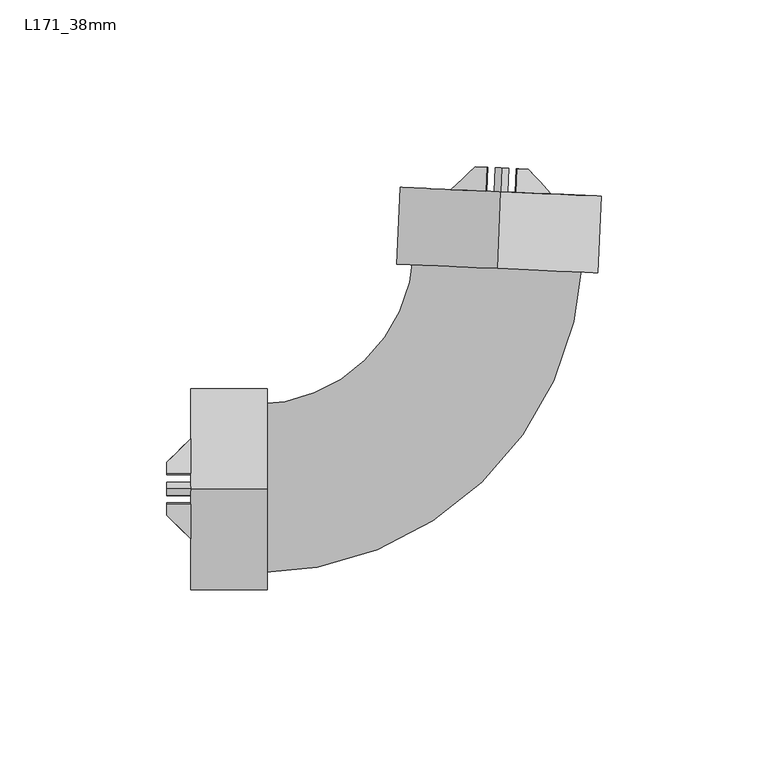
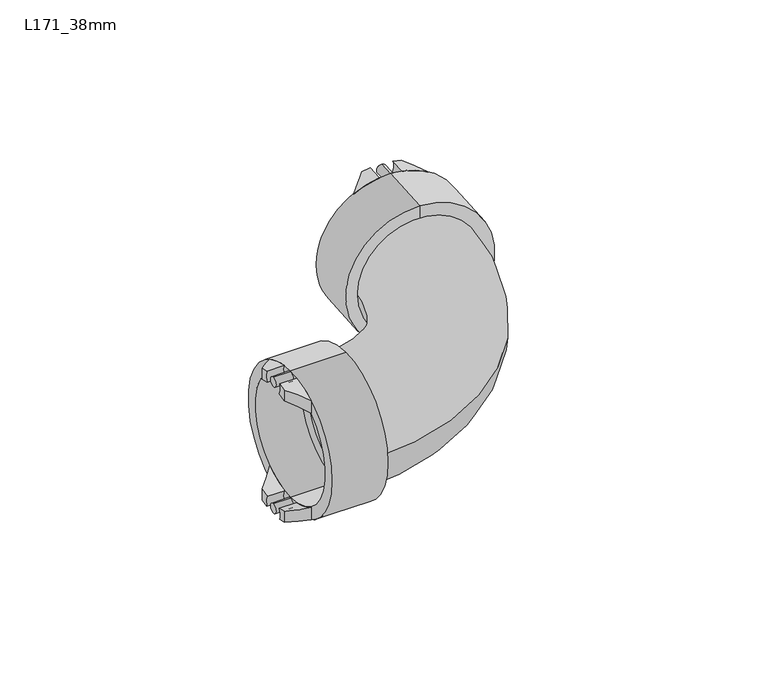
"""IFC4 building model written with IfcOpenShell, lengths in millimetres: pipe fitting geometry, Durapipe_PipeFitting_VulcatheneEnfusion_DoubleSocketLongSweepBend_L17 : L171_38mm."""

from ifc_helpers import new_model, si_unit, point, frame, frame_2d, origin, place, context, project, spatial, polyline, circle_curve, ellipse_curve, trimmed, segment, composite_curve, outline, extrude, source, transform, mapped, element, save
from ifc_brep_helpers import plane_surface, cylinder_surface, revolved_surface, advanced_brep


def l171_38mm_267e390a(model_context):
    return source(origin(), model_context, "Body", "SolidModel", [
        advanced_brep(
        [(-0.0371428, 96.2798252, -25.0948649), (-0.4062625, 96.2959413, -29.6948649), (-3.7368437, 96.4413576, -28.9820444), (-3.7368437, 96.4413576, -24.1797208), (-11.0998218, 89.6560681, -26.0384811), (-0.7159602, 89.202699, -29.6948649), (-0.3468404, 89.1865828, -25.0948649), (-11.0998218, 89.6560681, -20.5597301)],
        [
            (0, 1, circle_curve(frame((4.1955992, 96.0950197, -27.75), z_axis=(-0.04361938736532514, -0.9990482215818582, 0.0), x_axis=(0.0, 0.0, 1.0)), 5.0)),
            (1, 2, circle_curve(frame((4.1955992, 96.0950197, 0.0), z_axis=(0.04361938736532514, 0.9990482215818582, 0.0), x_axis=(0.0, 0.0, 1.0)), 30.05)),
            (2, 3),
            (3, 0, circle_curve(frame((4.1955992, 96.0950197, 0.0), z_axis=(-0.04361938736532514, -0.9990482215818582, 0.0), x_axis=(0.0, 0.0, 1.0)), 25.45)),
            (4, 5, circle_curve(frame((3.8859015, 89.0017773, 0.0), z_axis=(-0.04361938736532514, -0.9990482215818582, 0.0), x_axis=(0.0, 0.0, 1.0)), 30.05)),
            (5, 6, circle_curve(frame((3.8859015, 89.0017773, -27.75), z_axis=(0.04361938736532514, 0.9990482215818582, 0.0), x_axis=(0.0, 0.0, 1.0)), 5.0)),
            (6, 7, circle_curve(frame((3.8859015, 89.0017773, 0.0), z_axis=(0.04361938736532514, 0.9990482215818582, 0.0), x_axis=(0.0, 0.0, 1.0)), 25.45)),
            (7, 4),
            (6, 0),
            (3, 7, ellipse_curve(frame((4.5438994, 104.0724056, 0.0), z_axis=(-0.6776702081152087, 0.7353659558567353, 0.0), x_axis=(-0.7353659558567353, -0.6776702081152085, 0.0)), 36.0938388, 25.45)),
            (4, 2, ellipse_curve(frame((4.5438994, 104.0724056, 0.0), z_axis=(0.6776702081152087, -0.7353659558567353, 0.0), x_axis=(0.7353659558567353, 0.6776702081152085, 0.0)), 42.617676, 30.05)),
            (1, 5),
        ],
        [
            plane_surface(frame((-10.7901242, 96.7493105, -26.0384811), z_axis=(0.04361938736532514, 0.9990482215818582, 0.0), x_axis=(0.0, 0.0, 1.0))),
            plane_surface(frame((-11.0998218, 89.6560681, -26.0384811), z_axis=(-0.04361938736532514, -0.9990482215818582, 0.0), x_axis=(0.0, 0.0, -1.0))),
            revolved_surface(polyline([(3.4274963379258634, 78.50257294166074, 25.45), (5.660302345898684, 129.64223826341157, 25.45)]), (3.8859015, 89.0017773, 0.0), (-0.04361938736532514, -0.9990482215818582, 0.0)),
            cylinder_surface(frame((3.8859015, 89.0017773, 0.0), z_axis=(0.04361938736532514, 0.9990482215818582, 0.0), x_axis=(0.0, 0.0, 1.0)), 30.05),
            revolved_surface(polyline([(4.19559915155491, 96.09501970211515, -22.75), (3.885901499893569, 89.00177729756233, -22.75)]), (3.8859015, 89.0017773, -27.75), (0.04361938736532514, 0.9990482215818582, 0.0)),
            plane_surface(frame((-11.0998218, 89.6560681, 30.05), z_axis=(-0.6776702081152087, 0.7353659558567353, 0.0), x_axis=(0.0, 0.0, -1.0))),
        ],
        [
            (0, [[1, 2, 3, 4]]),
            (1, [[5, 6, 7, 8]]),
            (2, [[-7, 9, -4, 10]]),
            (3, [[-5, 11, -2, 12]]),
            (4, [[-1, -9, -6, -12]]),
            (5, [[-3, -11, -8, -10]]),
        ],
    ),
        advanced_brep(
        [(8.7974609, 95.8940981, -29.6948649), (8.4283411, 95.9102142, -25.0948649), (12.128042, 95.7486818, -24.1797208), (12.128042, 95.7486818, -28.9820444), (8.4877632, 88.8008557, -29.6948649), (18.8716248, 88.3474865, -26.0384811), (18.8716248, 88.3474865, -20.5597301), (8.1186435, 88.8169718, -25.0948649)],
        [
            (0, 1, circle_curve(frame((4.1955992, 96.0950197, -27.75), z_axis=(-0.04361938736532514, -0.9990482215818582, 0.0), x_axis=(0.0, 0.0, 1.0)), 5.0)),
            (1, 2, circle_curve(frame((4.1955992, 96.0950197, 0.0), z_axis=(-0.04361938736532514, -0.9990482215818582, 0.0), x_axis=(0.0, 0.0, 1.0)), 25.45)),
            (2, 3),
            (3, 0, circle_curve(frame((4.1955992, 96.0950197, 0.0), z_axis=(0.04361938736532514, 0.9990482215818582, 0.0), x_axis=(0.0, 0.0, 1.0)), 30.05)),
            (4, 5, circle_curve(frame((3.8859015, 89.0017773, 0.0), z_axis=(-0.04361938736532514, -0.9990482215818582, 0.0), x_axis=(0.0, 0.0, 1.0)), 30.05)),
            (5, 6),
            (6, 7, circle_curve(frame((3.8859015, 89.0017773, 0.0), z_axis=(0.04361938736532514, 0.9990482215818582, 0.0), x_axis=(0.0, 0.0, 1.0)), 25.45)),
            (7, 4, circle_curve(frame((3.8859015, 89.0017773, -27.75), z_axis=(0.04361938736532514, 0.9990482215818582, 0.0), x_axis=(0.0, 0.0, 1.0)), 5.0)),
            (6, 2, ellipse_curve(frame((4.5438994, 104.0724056, 0.0), z_axis=(0.7391828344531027, 0.6735048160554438, 0.0), x_axis=(0.6735048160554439, -0.7391828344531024, 0.0)), 36.0938388, 25.45)),
            (1, 7),
            (4, 0),
            (3, 5, ellipse_curve(frame((4.5438994, 104.0724056, 0.0), z_axis=(-0.7391828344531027, -0.6735048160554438, 0.0), x_axis=(-0.6735048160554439, 0.7391828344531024, 0.0)), 42.617676, 30.05)),
        ],
        [
            plane_surface(frame((-10.7901242, 96.7493105, -26.0384811), z_axis=(0.04361938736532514, 0.9990482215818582, 0.0), x_axis=(0.0, 0.0, 1.0))),
            plane_surface(frame((-11.0998218, 89.6560681, -26.0384811), z_axis=(-0.04361938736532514, -0.9990482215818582, 0.0), x_axis=(0.0, 0.0, -1.0))),
            revolved_surface(polyline([(3.427496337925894, 78.50257294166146, 25.45), (5.6603023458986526, 129.64223826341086, 25.45)]), (3.8859015, 89.0017773, 0.0), (-0.04361938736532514, -0.9990482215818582, 0.0)),
            cylinder_surface(frame((3.8859015, 89.0017773, 0.0), z_axis=(0.04361938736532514, 0.9990482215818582, 0.0), x_axis=(0.0, 0.0, 1.0)), 30.05),
            revolved_surface(polyline([(4.19559915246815, 96.0950197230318, -22.75), (3.8859015, 89.0017773, -22.75)]), (3.8859015, 89.0017773, -27.75), (0.04361938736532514, 0.9990482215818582, 0.0)),
            plane_surface(frame((12.128042, 95.7486818, 30.05), z_axis=(0.7391828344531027, 0.6735048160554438, 0.0), x_axis=(0.0, 0.0, -1.0))),
        ],
        [
            (0, [[1, 2, 3, 4]]),
            (1, [[5, 6, 7, 8]]),
            (2, [[-7, 9, -2, 10]]),
            (3, [[-5, 11, -4, 12]]),
            (4, [[-1, -11, -8, -10]]),
            (5, [[-3, -9, -6, -12]]),
        ],
    ),
        advanced_brep(
        [(-0.4062625, 96.2959413, 29.6948649), (-0.0371428, 96.2798252, 25.0948649), (-3.7368437, 96.4413576, 24.1797208), (-3.7368437, 96.4413576, 28.9820444), (-0.7159602, 89.202699, 29.6948649), (-11.0998218, 89.6560681, 26.0384811), (-11.0998218, 89.6560681, 20.5597301), (-0.3468404, 89.1865828, 25.0948649)],
        [
            (0, 1, circle_curve(frame((4.1955992, 96.0950197, 27.75), z_axis=(-0.04361938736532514, -0.9990482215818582, 0.0), x_axis=(0.0, 0.0, 1.0)), 5.0)),
            (1, 2, circle_curve(frame((4.1955992, 96.0950197, 0.0), z_axis=(-0.04361938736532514, -0.9990482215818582, 0.0), x_axis=(0.0, 0.0, 1.0)), 25.45)),
            (2, 3),
            (3, 0, circle_curve(frame((4.1955992, 96.0950197, 0.0), z_axis=(0.04361938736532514, 0.9990482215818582, 0.0), x_axis=(0.0, 0.0, 1.0)), 30.05)),
            (4, 5, circle_curve(frame((3.8859015, 89.0017773, 0.0), z_axis=(-0.04361938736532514, -0.9990482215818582, 0.0), x_axis=(0.0, 0.0, 1.0)), 30.05)),
            (5, 6),
            (6, 7, circle_curve(frame((3.8859015, 89.0017773, 0.0), z_axis=(0.04361938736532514, 0.9990482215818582, 0.0), x_axis=(0.0, 0.0, 1.0)), 25.45)),
            (7, 4, circle_curve(frame((3.8859015, 89.0017773, 27.75), z_axis=(0.04361938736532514, 0.9990482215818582, 0.0), x_axis=(0.0, 0.0, 1.0)), 5.0)),
            (6, 2, ellipse_curve(frame((4.5438994, 104.0724056, 0.0), z_axis=(-0.6776702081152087, 0.7353659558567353, 0.0), x_axis=(-0.7353659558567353, -0.6776702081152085, 0.0)), 36.0938388, 25.45)),
            (1, 7),
            (4, 0),
            (3, 5, ellipse_curve(frame((4.5438994, 104.0724056, 0.0), z_axis=(0.6776702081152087, -0.7353659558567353, 0.0), x_axis=(0.7353659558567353, 0.6776702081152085, 0.0)), 42.617676, 30.05)),
        ],
        [
            plane_surface(frame((-10.7901242, 96.7493105, -26.0384811), z_axis=(0.04361938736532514, 0.9990482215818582, 0.0), x_axis=(0.0, 0.0, 1.0))),
            plane_surface(frame((-11.0998218, 89.6560681, -26.0384811), z_axis=(-0.04361938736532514, -0.9990482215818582, 0.0), x_axis=(0.0, 0.0, -1.0))),
            revolved_surface(polyline([(3.4274963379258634, 78.50257294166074, 25.45), (5.660302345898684, 129.64223826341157, 25.45)]), (3.8859015, 89.0017773, 0.0), (-0.04361938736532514, -0.9990482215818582, 0.0)),
            cylinder_surface(frame((3.8859015, 89.0017773, 0.0), z_axis=(0.04361938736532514, 0.9990482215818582, 0.0), x_axis=(0.0, 0.0, 1.0)), 30.05),
            revolved_surface(polyline([(4.19559915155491, 96.09501970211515, 32.75), (3.885901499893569, 89.00177729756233, 32.75)]), (3.8859015, 89.0017773, 27.75), (0.04361938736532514, 0.9990482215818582, 0.0)),
            plane_surface(frame((-11.0998218, 89.6560681, 30.05), z_axis=(-0.6776702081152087, 0.7353659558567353, 0.0), x_axis=(0.0, 0.0, -1.0))),
        ],
        [
            (0, [[1, 2, 3, 4]]),
            (1, [[5, 6, 7, 8]]),
            (2, [[-7, 9, -2, 10]]),
            (3, [[-5, 11, -4, 12]]),
            (4, [[-1, -11, -8, -10]]),
            (5, [[-3, -9, -6, -12]]),
        ],
    ),
        advanced_brep(
        [(8.4283411, 95.9102142, 25.0948649), (8.7974609, 95.8940981, 29.6948649), (12.128042, 95.7486818, 28.9820444), (12.128042, 95.7486818, 24.1797208), (18.8716248, 88.3474865, 26.0384811), (8.4877632, 88.8008557, 29.6948649), (8.1186435, 88.8169718, 25.0948649), (18.8716248, 88.3474865, 20.5597301)],
        [
            (0, 1, circle_curve(frame((4.1955992, 96.0950197, 27.75), z_axis=(-0.04361938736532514, -0.9990482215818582, 0.0), x_axis=(0.0, 0.0, 1.0)), 5.0)),
            (1, 2, circle_curve(frame((4.1955992, 96.0950197, 0.0), z_axis=(0.04361938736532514, 0.9990482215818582, 0.0), x_axis=(0.0, 0.0, 1.0)), 30.05)),
            (2, 3),
            (3, 0, circle_curve(frame((4.1955992, 96.0950197, 0.0), z_axis=(-0.04361938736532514, -0.9990482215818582, 0.0), x_axis=(0.0, 0.0, 1.0)), 25.45)),
            (4, 5, circle_curve(frame((3.8859015, 89.0017773, 0.0), z_axis=(-0.04361938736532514, -0.9990482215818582, 0.0), x_axis=(0.0, 0.0, 1.0)), 30.05)),
            (5, 6, circle_curve(frame((3.8859015, 89.0017773, 27.75), z_axis=(0.04361938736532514, 0.9990482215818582, 0.0), x_axis=(0.0, 0.0, 1.0)), 5.0)),
            (6, 7, circle_curve(frame((3.8859015, 89.0017773, 0.0), z_axis=(0.04361938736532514, 0.9990482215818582, 0.0), x_axis=(0.0, 0.0, 1.0)), 25.45)),
            (7, 4),
            (6, 0),
            (3, 7, ellipse_curve(frame((4.5438994, 104.0724056, 0.0), z_axis=(0.7391828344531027, 0.6735048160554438, 0.0), x_axis=(0.6735048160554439, -0.7391828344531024, 0.0)), 36.0938388, 25.45)),
            (4, 2, ellipse_curve(frame((4.5438994, 104.0724056, 0.0), z_axis=(-0.7391828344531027, -0.6735048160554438, 0.0), x_axis=(-0.6735048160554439, 0.7391828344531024, 0.0)), 42.617676, 30.05)),
            (1, 5),
        ],
        [
            plane_surface(frame((-10.7901242, 96.7493105, -26.0384811), z_axis=(0.04361938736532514, 0.9990482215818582, 0.0), x_axis=(0.0, 0.0, 1.0))),
            plane_surface(frame((-11.0998218, 89.6560681, -26.0384811), z_axis=(-0.04361938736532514, -0.9990482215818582, 0.0), x_axis=(0.0, 0.0, -1.0))),
            revolved_surface(polyline([(3.427496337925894, 78.50257294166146, 25.45), (5.6603023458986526, 129.64223826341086, 25.45)]), (3.8859015, 89.0017773, 0.0), (-0.04361938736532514, -0.9990482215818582, 0.0)),
            cylinder_surface(frame((3.8859015, 89.0017773, 0.0), z_axis=(0.04361938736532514, 0.9990482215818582, 0.0), x_axis=(0.0, 0.0, 1.0)), 30.05),
            revolved_surface(polyline([(4.19559915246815, 96.0950197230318, 32.75), (3.8859015, 89.0017773, 32.75)]), (3.8859015, 89.0017773, 27.75), (0.04361938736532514, 0.9990482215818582, 0.0)),
            plane_surface(frame((12.128042, 95.7486818, 30.05), z_axis=(0.7391828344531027, 0.6735048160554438, 0.0), x_axis=(0.0, 0.0, -1.0))),
        ],
        [
            (0, [[1, 2, 3, 4]]),
            (1, [[5, 6, 7, 8]]),
            (2, [[-7, 9, -4, 10]]),
            (3, [[-5, 11, -2, 12]]),
            (4, [[-1, -9, -6, -12]]),
            (5, [[-3, -11, -8, -10]]),
        ],
    ),
        extrude(outline(composite_curve([segment(trimmed(circle_curve(frame_2d((0.0, -2.0)), 2.0), [point((0.0, -4.0))], [point((0.0, 0.0))], False, "CARTESIAN"), True, "CONTINUOUS"), segment(trimmed(circle_curve(frame_2d((0.0, -2.0)), 2.0), [point((0.0, 0.0))], [point((0.0, -4.0))], False, "CARTESIAN"), True, "CONTINUOUS")], self_intersect=False)), frame((3.8859015, 89.0017773, -25.75), z_axis=(0.04361938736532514, 0.9990482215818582, 0.0), x_axis=(-0.9990482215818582, 0.04361938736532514, 0.0)), (0.0, 0.0, 1.0), 7.1),
        extrude(outline(composite_curve([segment(trimmed(circle_curve(frame_2d((0.0, 53.5)), 2.0), [point((0.0, 51.5))], [point((0.0, 55.5))], False, "CARTESIAN"), True, "CONTINUOUS"), segment(trimmed(circle_curve(frame_2d((0.0, 53.5)), 2.0), [point((0.0, 55.5))], [point((0.0, 51.5))], False, "CARTESIAN"), True, "CONTINUOUS")], self_intersect=False)), frame((3.8859015, 89.0017773, -25.75), z_axis=(0.04361938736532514, 0.9990482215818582, 0.0), x_axis=(-0.9990482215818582, 0.04361938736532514, 0.0)), (0.0, 0.0, 1.0), 7.1),
        advanced_brep(
        [(3.0440473, 69.7201467, -20.65), (3.0440473, 69.7201467, 20.65), (3.0440473, 69.7201467, 25.3), (3.0440473, 69.7201467, -25.3), (2.8826556, 66.0236682, -20.65), (2.8826556, 66.0236682, 20.65), (2.8826556, 66.0236682, -30.2), (2.8826556, 66.0236682, 30.2), (3.8859015, 89.0017773, -30.2), (3.8859015, 89.0017773, 30.2), (3.8859015, 89.0017773, -25.3), (3.8859015, 89.0017773, 25.3)],
        [
            (0, 1, circle_curve(frame((3.0440473, 69.7201467, 0.0), z_axis=(-0.04361938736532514, -0.9990482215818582, 0.0), x_axis=(0.0, 0.0, 1.0)), 20.65)),
            (1, 2),
            (2, 3, circle_curve(frame((3.0440473, 69.7201467, 0.0), z_axis=(0.04361938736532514, 0.9990482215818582, 0.0), x_axis=(0.0, 0.0, 1.0)), 25.3)),
            (3, 0),
            (1, 0, circle_curve(frame((3.0440473, 69.7201467, 0.0), z_axis=(-0.04361938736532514, -0.9990482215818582, 0.0), x_axis=(0.0, 0.0, 1.0)), 20.65)),
            (3, 2, circle_curve(frame((3.0440473, 69.7201467, 0.0), z_axis=(0.04361938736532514, 0.9990482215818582, 0.0), x_axis=(0.0, 0.0, 1.0)), 25.3)),
            (4, 5, circle_curve(frame((2.8826556, 66.0236682, 0.0), z_axis=(-0.04361938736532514, -0.9990482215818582, 0.0), x_axis=(0.0, 0.0, 1.0)), 20.65)),
            (5, 1),
            (0, 4),
            (5, 4, circle_curve(frame((2.8826556, 66.0236682, 0.0), z_axis=(-0.04361938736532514, -0.9990482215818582, 0.0), x_axis=(0.0, 0.0, 1.0)), 20.65)),
            (6, 7, circle_curve(frame((2.8826556, 66.0236682, 0.0), z_axis=(-0.04361938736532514, -0.9990482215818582, 0.0), x_axis=(0.0, 0.0, 1.0)), 30.2)),
            (7, 5),
            (4, 6),
            (7, 6, circle_curve(frame((2.8826556, 66.0236682, 0.0), z_axis=(-0.04361938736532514, -0.9990482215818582, 0.0), x_axis=(0.0, 0.0, 1.0)), 30.2)),
            (8, 9, circle_curve(frame((3.8859015, 89.0017773, 0.0), z_axis=(-0.04361938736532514, -0.9990482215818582, 0.0), x_axis=(0.0, 0.0, 1.0)), 30.2)),
            (9, 7),
            (6, 8),
            (9, 8, circle_curve(frame((3.8859015, 89.0017773, 0.0), z_axis=(-0.04361938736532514, -0.9990482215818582, 0.0), x_axis=(0.0, 0.0, 1.0)), 30.2)),
            (10, 11, circle_curve(frame((3.8859015, 89.0017773, 0.0), z_axis=(-0.04361938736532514, -0.9990482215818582, 0.0), x_axis=(0.0, 0.0, 1.0)), 25.3)),
            (11, 9),
            (8, 10),
            (11, 10, circle_curve(frame((3.8859015, 89.0017773, 0.0), z_axis=(-0.04361938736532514, -0.9990482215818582, 0.0), x_axis=(0.0, 0.0, 1.0)), 25.3)),
            (2, 11),
            (10, 3),
        ],
        [
            plane_surface(frame((3.0440473, 69.7201467, 0.0), z_axis=(0.04361938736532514, 0.9990482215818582, 0.0), x_axis=(0.0, 0.0, 1.0))),
            revolved_surface(polyline([(3.044047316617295, 69.72014669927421, 20.65), (2.882655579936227, 66.02366820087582, 20.65)]), (113.5442834, 2600.591647, 0.0), (0.04361938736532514, 0.9990482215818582, 0.0)),
            plane_surface(frame((2.8826556, 66.0236682, 0.0), z_axis=(-0.04361938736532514, -0.9990482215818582, 0.0), x_axis=(0.0, 0.0, 1.0))),
            cylinder_surface(frame((113.5442834, 2600.591647, 0.0), z_axis=(0.04361938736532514, 0.9990482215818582, 0.0), x_axis=(0.0, 0.0, 1.0)), 30.2),
            plane_surface(frame((3.8859015, 89.0017773, 0.0), z_axis=(0.04361938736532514, 0.9990482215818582, 0.0), x_axis=(0.0, 0.0, 1.0))),
            revolved_surface(polyline([(3.8859014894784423, 89.00177730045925, 25.3), (3.044047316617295, 69.72014669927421, 25.3)]), (113.5442834, 2600.591647, 0.0), (0.04361938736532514, 0.9990482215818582, 0.0)),
        ],
        [
            (0, [[1, 2, 3, 4]]),
            (0, [[5, -4, 6, -2]]),
            (1, [[7, 8, -1, 9]]),
            (1, [[10, -9, -5, -8]]),
            (2, [[11, 12, -7, 13]]),
            (2, [[14, -13, -10, -12]]),
            (3, [[15, 16, -11, 17]]),
            (3, [[18, -17, -14, -16]]),
            (4, [[19, 20, -15, 21]]),
            (4, [[22, -21, -18, -20]]),
            (5, [[-3, 23, -19, 24]]),
            (5, [[-6, -24, -22, -23]]),
        ],
    ),
        advanced_brep(
        [(-96.186568, -4.2367744, -25.0948649), (-96.186568, -4.6062458, -29.6948649), (-96.186568, -7.94, -28.9820444), (-96.186568, -7.94, -24.1797208), (-89.086568, -15.0, -26.0384811), (-89.086568, -4.6062458, -29.6948649), (-89.086568, -4.2367744, -25.0948649), (-89.086568, -15.0, -20.5597301)],
        [
            (0, 1, circle_curve(frame((-96.186568, 0.0, -27.75), z_axis=(1.0, 0.0, 0.0), x_axis=(0.0, 0.0, 1.0)), 5.0)),
            (1, 2, circle_curve(frame((-96.186568, 0.0, 0.0), z_axis=(-1.0, 0.0, 0.0), x_axis=(0.0, 0.0, 1.0)), 30.05)),
            (2, 3),
            (3, 0, circle_curve(frame((-96.186568, 0.0, 0.0), z_axis=(1.0, 0.0, 0.0), x_axis=(0.0, 0.0, 1.0)), 25.45)),
            (4, 5, circle_curve(frame((-89.086568, 0.0, 0.0), z_axis=(1.0, 0.0, 0.0), x_axis=(0.0, 0.0, 1.0)), 30.05)),
            (5, 6, circle_curve(frame((-89.086568, 0.0, -27.75), z_axis=(-1.0, 0.0, 0.0), x_axis=(0.0, 0.0, 1.0)), 5.0)),
            (6, 7, circle_curve(frame((-89.086568, 0.0, 0.0), z_axis=(-1.0, 0.0, 0.0), x_axis=(0.0, 0.0, 1.0)), 25.45)),
            (7, 4),
            (6, 0),
            (3, 7, ellipse_curve(frame((-104.1715538, 0.0, 0.0), z_axis=(-0.705106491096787, -0.7091014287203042, 0.0), x_axis=(0.7091014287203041, -0.7051064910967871, 0.0)), 36.0938388, 25.45)),
            (4, 2, ellipse_curve(frame((-104.1715538, 0.0, 0.0), z_axis=(0.705106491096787, 0.7091014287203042, 0.0), x_axis=(-0.7091014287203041, 0.7051064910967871, 0.0)), 42.617676, 30.05)),
            (1, 5),
        ],
        [
            plane_surface(frame((-96.186568, -15.0, -26.0384811), z_axis=(-1.0, 0.0, 0.0), x_axis=(0.0, 0.0, 1.0))),
            plane_surface(frame((-89.086568, -15.0, -26.0384811), z_axis=(1.0, 0.0, 0.0), x_axis=(0.0, 0.0, -1.0))),
            revolved_surface(polyline([(-78.57736113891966, 0.0, 25.45), (-129.76574646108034, 0.0, 25.45)]), (-89.086568, 0.0, 0.0), (1.0, 0.0, 0.0)),
            cylinder_surface(frame((-89.086568, 0.0, 0.0), z_axis=(-1.0, 0.0, 0.0), x_axis=(0.0, 0.0, 1.0)), 30.05),
            revolved_surface(polyline([(-96.186568, 0.0, -22.75), (-89.086568, 0.0, -22.75)]), (-89.086568, 0.0, -27.75), (-1.0, 0.0, 0.0)),
            plane_surface(frame((-89.086568, -15.0, 30.05), z_axis=(-0.705106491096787, -0.7091014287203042, 0.0), x_axis=(0.0, 0.0, -1.0))),
        ],
        [
            (0, [[1, 2, 3, 4]]),
            (1, [[5, 6, 7, 8]]),
            (2, [[-7, 9, -4, 10]]),
            (3, [[-5, 11, -2, 12]]),
            (4, [[-1, -9, -6, -12]]),
            (5, [[-3, -11, -8, -10]]),
        ],
    ),
        advanced_brep(
        [(-96.186568, 4.6062458, -29.6948649), (-96.186568, 4.2367744, -25.0948649), (-96.186568, 7.94, -24.1797208), (-96.186568, 7.94, -28.9820444), (-89.086568, 4.6062458, -29.6948649), (-89.086568, 15.0, -26.0384811), (-89.086568, 15.0, -20.5597301), (-89.086568, 4.2367744, -25.0948649)],
        [
            (0, 1, circle_curve(frame((-96.186568, 0.0, -27.75), z_axis=(1.0, 0.0, 0.0), x_axis=(0.0, 0.0, 1.0)), 5.0)),
            (1, 2, circle_curve(frame((-96.186568, 0.0, 0.0), z_axis=(1.0, 0.0, 0.0), x_axis=(0.0, 0.0, 1.0)), 25.45)),
            (2, 3),
            (3, 0, circle_curve(frame((-96.186568, 0.0, 0.0), z_axis=(-1.0, 0.0, 0.0), x_axis=(0.0, 0.0, 1.0)), 30.05)),
            (4, 5, circle_curve(frame((-89.086568, 0.0, 0.0), z_axis=(1.0, 0.0, 0.0), x_axis=(0.0, 0.0, 1.0)), 30.05)),
            (5, 6),
            (6, 7, circle_curve(frame((-89.086568, 0.0, 0.0), z_axis=(-1.0, 0.0, 0.0), x_axis=(0.0, 0.0, 1.0)), 25.45)),
            (7, 4, circle_curve(frame((-89.086568, 0.0, -27.75), z_axis=(-1.0, 0.0, 0.0), x_axis=(0.0, 0.0, 1.0)), 5.0)),
            (6, 2, ellipse_curve(frame((-104.1715538, 0.0, 0.0), z_axis=(-0.7051064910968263, 0.7091014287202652, 0.0), x_axis=(0.7091014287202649, 0.7051064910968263, 0.0)), 36.0938388, 25.45)),
            (1, 7),
            (4, 0),
            (3, 5, ellipse_curve(frame((-104.1715538, 0.0, 0.0), z_axis=(0.7051064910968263, -0.7091014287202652, 0.0), x_axis=(-0.7091014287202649, -0.7051064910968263, 0.0)), 42.617676, 30.05)),
        ],
        [
            plane_surface(frame((-96.186568, -15.0, -26.0384811), z_axis=(-1.0, 0.0, 0.0), x_axis=(0.0, 0.0, 1.0))),
            plane_surface(frame((-89.086568, -15.0, -26.0384811), z_axis=(1.0, 0.0, 0.0), x_axis=(0.0, 0.0, -1.0))),
            revolved_surface(polyline([(-78.57736113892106, 0.0, 25.45), (-129.76574646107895, 0.0, 25.45)]), (-89.086568, 0.0, 0.0), (1.0, 0.0, 0.0)),
            cylinder_surface(frame((-89.086568, 0.0, 0.0), z_axis=(-1.0, 0.0, 0.0), x_axis=(0.0, 0.0, 1.0)), 30.05),
            revolved_surface(polyline([(-96.186568, 0.0, -22.75), (-89.086568, 0.0, -22.75)]), (-89.086568, 0.0, -27.75), (-1.0, 0.0, 0.0)),
            plane_surface(frame((-96.186568, 7.94, 30.05), z_axis=(-0.7051064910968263, 0.7091014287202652, 0.0), x_axis=(0.0, 0.0, -1.0))),
        ],
        [
            (0, [[1, 2, 3, 4]]),
            (1, [[5, 6, 7, 8]]),
            (2, [[-7, 9, -2, 10]]),
            (3, [[-5, 11, -4, 12]]),
            (4, [[-1, -11, -8, -10]]),
            (5, [[-3, -9, -6, -12]]),
        ],
    ),
        advanced_brep(
        [(-96.186568, -4.6062458, 29.6948649), (-96.186568, -4.2367744, 25.0948649), (-96.186568, -7.94, 24.1797208), (-96.186568, -7.94, 28.9820444), (-89.086568, -4.6062458, 29.6948649), (-89.086568, -15.0, 26.0384811), (-89.086568, -15.0, 20.5597301), (-89.086568, -4.2367744, 25.0948649)],
        [
            (0, 1, circle_curve(frame((-96.186568, 0.0, 27.75), z_axis=(1.0, 0.0, 0.0), x_axis=(0.0, 0.0, 1.0)), 5.0)),
            (1, 2, circle_curve(frame((-96.186568, 0.0, 0.0), z_axis=(1.0, 0.0, 0.0), x_axis=(0.0, 0.0, 1.0)), 25.45)),
            (2, 3),
            (3, 0, circle_curve(frame((-96.186568, 0.0, 0.0), z_axis=(-1.0, 0.0, 0.0), x_axis=(0.0, 0.0, 1.0)), 30.05)),
            (4, 5, circle_curve(frame((-89.086568, 0.0, 0.0), z_axis=(1.0, 0.0, 0.0), x_axis=(0.0, 0.0, 1.0)), 30.05)),
            (5, 6),
            (6, 7, circle_curve(frame((-89.086568, 0.0, 0.0), z_axis=(-1.0, 0.0, 0.0), x_axis=(0.0, 0.0, 1.0)), 25.45)),
            (7, 4, circle_curve(frame((-89.086568, 0.0, 27.75), z_axis=(-1.0, 0.0, 0.0), x_axis=(0.0, 0.0, 1.0)), 5.0)),
            (6, 2, ellipse_curve(frame((-104.1715538, 0.0, 0.0), z_axis=(-0.705106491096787, -0.7091014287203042, 0.0), x_axis=(0.7091014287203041, -0.7051064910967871, 0.0)), 36.0938388, 25.45)),
            (1, 7),
            (4, 0),
            (3, 5, ellipse_curve(frame((-104.1715538, 0.0, 0.0), z_axis=(0.705106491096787, 0.7091014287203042, 0.0), x_axis=(-0.7091014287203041, 0.7051064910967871, 0.0)), 42.617676, 30.05)),
        ],
        [
            plane_surface(frame((-96.186568, -15.0, -26.0384811), z_axis=(-1.0, 0.0, 0.0), x_axis=(0.0, 0.0, 1.0))),
            plane_surface(frame((-89.086568, -15.0, -26.0384811), z_axis=(1.0, 0.0, 0.0), x_axis=(0.0, 0.0, -1.0))),
            revolved_surface(polyline([(-78.57736113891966, 0.0, 25.45), (-129.76574646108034, 0.0, 25.45)]), (-89.086568, 0.0, 0.0), (1.0, 0.0, 0.0)),
            cylinder_surface(frame((-89.086568, 0.0, 0.0), z_axis=(-1.0, 0.0, 0.0), x_axis=(0.0, 0.0, 1.0)), 30.05),
            revolved_surface(polyline([(-96.186568, 0.0, 32.75), (-89.086568, 0.0, 32.75)]), (-89.086568, 0.0, 27.75), (-1.0, 0.0, 0.0)),
            plane_surface(frame((-89.086568, -15.0, 30.05), z_axis=(-0.705106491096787, -0.7091014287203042, 0.0), x_axis=(0.0, 0.0, -1.0))),
        ],
        [
            (0, [[1, 2, 3, 4]]),
            (1, [[5, 6, 7, 8]]),
            (2, [[-7, 9, -2, 10]]),
            (3, [[-5, 11, -4, 12]]),
            (4, [[-1, -11, -8, -10]]),
            (5, [[-3, -9, -6, -12]]),
        ],
    ),
        advanced_brep(
        [(-96.186568, 4.2367744, 25.0948649), (-96.186568, 4.6062458, 29.6948649), (-96.186568, 7.94, 28.9820444), (-96.186568, 7.94, 24.1797208), (-89.086568, 15.0, 26.0384811), (-89.086568, 4.6062458, 29.6948649), (-89.086568, 4.2367744, 25.0948649), (-89.086568, 15.0, 20.5597301)],
        [
            (0, 1, circle_curve(frame((-96.186568, 0.0, 27.75), z_axis=(1.0, 0.0, 0.0), x_axis=(0.0, 0.0, 1.0)), 5.0)),
            (1, 2, circle_curve(frame((-96.186568, 0.0, 0.0), z_axis=(-1.0, 0.0, 0.0), x_axis=(0.0, 0.0, 1.0)), 30.05)),
            (2, 3),
            (3, 0, circle_curve(frame((-96.186568, 0.0, 0.0), z_axis=(1.0, 0.0, 0.0), x_axis=(0.0, 0.0, 1.0)), 25.45)),
            (4, 5, circle_curve(frame((-89.086568, 0.0, 0.0), z_axis=(1.0, 0.0, 0.0), x_axis=(0.0, 0.0, 1.0)), 30.05)),
            (5, 6, circle_curve(frame((-89.086568, 0.0, 27.75), z_axis=(-1.0, 0.0, 0.0), x_axis=(0.0, 0.0, 1.0)), 5.0)),
            (6, 7, circle_curve(frame((-89.086568, 0.0, 0.0), z_axis=(-1.0, 0.0, 0.0), x_axis=(0.0, 0.0, 1.0)), 25.45)),
            (7, 4),
            (6, 0),
            (3, 7, ellipse_curve(frame((-104.1715538, 0.0, 0.0), z_axis=(-0.7051064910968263, 0.7091014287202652, 0.0), x_axis=(0.7091014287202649, 0.7051064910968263, 0.0)), 36.0938388, 25.45)),
            (4, 2, ellipse_curve(frame((-104.1715538, 0.0, 0.0), z_axis=(0.7051064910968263, -0.7091014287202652, 0.0), x_axis=(-0.7091014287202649, -0.7051064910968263, 0.0)), 42.617676, 30.05)),
            (1, 5),
        ],
        [
            plane_surface(frame((-96.186568, -15.0, -26.0384811), z_axis=(-1.0, 0.0, 0.0), x_axis=(0.0, 0.0, 1.0))),
            plane_surface(frame((-89.086568, -15.0, -26.0384811), z_axis=(1.0, 0.0, 0.0), x_axis=(0.0, 0.0, -1.0))),
            revolved_surface(polyline([(-78.57736113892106, 0.0, 25.45), (-129.76574646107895, 0.0, 25.45)]), (-89.086568, 0.0, 0.0), (1.0, 0.0, 0.0)),
            cylinder_surface(frame((-89.086568, 0.0, 0.0), z_axis=(-1.0, 0.0, 0.0), x_axis=(0.0, 0.0, 1.0)), 30.05),
            revolved_surface(polyline([(-96.186568, 0.0, 32.75), (-89.086568, 0.0, 32.75)]), (-89.086568, 0.0, 27.75), (-1.0, 0.0, 0.0)),
            plane_surface(frame((-96.186568, 7.94, 30.05), z_axis=(-0.7051064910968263, 0.7091014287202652, 0.0), x_axis=(0.0, 0.0, -1.0))),
        ],
        [
            (0, [[1, 2, 3, 4]]),
            (1, [[5, 6, 7, 8]]),
            (2, [[-7, 9, -4, 10]]),
            (3, [[-5, 11, -2, 12]]),
            (4, [[-1, -9, -6, -12]]),
            (5, [[-3, -11, -8, -10]]),
        ],
    ),
        extrude(outline(composite_curve([segment(trimmed(circle_curve(frame_2d((0.0, -27.75)), 2.0), [point((0.0, -29.75))], [point((0.0, -25.75))], False, "CARTESIAN"), True, "CONTINUOUS"), segment(trimmed(circle_curve(frame_2d((0.0, -27.75)), 2.0), [point((0.0, -25.75))], [point((0.0, -29.75))], False, "CARTESIAN"), True, "CONTINUOUS")], self_intersect=False)), frame((-96.186568, 0.0, 0.0), z_axis=(1.0, 0.0, 0.0), x_axis=(0.0, 1.0, 0.0)), (0.0, 0.0, 1.0), 7.1),
        extrude(outline(composite_curve([segment(trimmed(circle_curve(frame_2d((0.0, 27.75)), 2.0), [point((0.0, 25.75))], [point((0.0, 29.75))], False, "CARTESIAN"), True, "CONTINUOUS"), segment(trimmed(circle_curve(frame_2d((0.0, 27.75)), 2.0), [point((0.0, 29.75))], [point((0.0, 25.75))], False, "CARTESIAN"), True, "CONTINUOUS")], self_intersect=False)), frame((-96.186568, 0.0, 0.0), z_axis=(1.0, 0.0, 0.0), x_axis=(0.0, 1.0, 0.0)), (0.0, 0.0, 1.0), 7.1),
        advanced_brep(
        [(-69.786568, 0.0, -20.65), (-69.786568, 0.0, 20.65), (-69.786568, 0.0, 25.3), (-69.786568, 0.0, -25.3), (-66.086568, 0.0, -20.65), (-66.086568, 0.0, 20.65), (-66.086568, 0.0, -30.2), (-66.086568, 0.0, 30.2), (-89.086568, 0.0, -30.2), (-89.086568, 0.0, 30.2), (-89.086568, 0.0, -25.3), (-89.086568, 0.0, 25.3)],
        [
            (0, 1, circle_curve(frame((-69.786568, 0.0, 0.0), z_axis=(1.0, 0.0, 0.0), x_axis=(0.0, 0.0, 1.0)), 20.65)),
            (1, 2),
            (2, 3, circle_curve(frame((-69.786568, 0.0, 0.0), z_axis=(-1.0, 0.0, 0.0), x_axis=(0.0, 0.0, 1.0)), 25.3)),
            (3, 0),
            (1, 0, circle_curve(frame((-69.786568, 0.0, 0.0), z_axis=(1.0, 0.0, 0.0), x_axis=(0.0, 0.0, 1.0)), 20.65)),
            (3, 2, circle_curve(frame((-69.786568, 0.0, 0.0), z_axis=(-1.0, 0.0, 0.0), x_axis=(0.0, 0.0, 1.0)), 25.3)),
            (4, 5, circle_curve(frame((-66.086568, 0.0, 0.0), z_axis=(1.0, 0.0, 0.0), x_axis=(0.0, 0.0, 1.0)), 20.65)),
            (5, 1),
            (0, 4),
            (5, 4, circle_curve(frame((-66.086568, 0.0, 0.0), z_axis=(1.0, 0.0, 0.0), x_axis=(0.0, 0.0, 1.0)), 20.65)),
            (6, 7, circle_curve(frame((-66.086568, 0.0, 0.0), z_axis=(1.0, 0.0, 0.0), x_axis=(0.0, 0.0, 1.0)), 30.2)),
            (7, 5),
            (4, 6),
            (7, 6, circle_curve(frame((-66.086568, 0.0, 0.0), z_axis=(1.0, 0.0, 0.0), x_axis=(0.0, 0.0, 1.0)), 30.2)),
            (8, 9, circle_curve(frame((-89.086568, 0.0, 0.0), z_axis=(1.0, 0.0, 0.0), x_axis=(0.0, 0.0, 1.0)), 30.2)),
            (9, 7),
            (6, 8),
            (9, 8, circle_curve(frame((-89.086568, 0.0, 0.0), z_axis=(1.0, 0.0, 0.0), x_axis=(0.0, 0.0, 1.0)), 30.2)),
            (10, 11, circle_curve(frame((-89.086568, 0.0, 0.0), z_axis=(1.0, 0.0, 0.0), x_axis=(0.0, 0.0, 1.0)), 25.3)),
            (11, 9),
            (8, 10),
            (11, 10, circle_curve(frame((-89.086568, 0.0, 0.0), z_axis=(1.0, 0.0, 0.0), x_axis=(0.0, 0.0, 1.0)), 25.3)),
            (2, 11),
            (10, 3),
        ],
        [
            plane_surface(frame((-69.786568, 0.0, 0.0), z_axis=(-1.0, 0.0, 0.0), x_axis=(0.0, 0.0, 1.0))),
            revolved_surface(polyline([(-69.78656799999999, 0.0, 20.65), (-66.08656800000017, 0.0, 20.65)]), (-2603.0691921, 0.0, 0.0), (-1.0, 0.0, 0.0)),
            plane_surface(frame((-66.086568, 0.0, 0.0), z_axis=(1.0, 0.0, 0.0), x_axis=(0.0, 0.0, 1.0))),
            cylinder_surface(frame((-2603.0691921, 0.0, 0.0), z_axis=(-1.0, 0.0, 0.0), x_axis=(0.0, 0.0, 1.0)), 30.2),
            plane_surface(frame((-89.086568, 0.0, 0.0), z_axis=(-1.0, 0.0, 0.0), x_axis=(0.0, 0.0, 1.0))),
            revolved_surface(polyline([(-89.08656800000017, 0.0, 25.3), (-69.78656799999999, 0.0, 25.3)]), (-2603.0691921, 0.0, 0.0), (-1.0, 0.0, 0.0)),
        ],
        [
            (0, [[1, 2, 3, 4]]),
            (0, [[5, -4, 6, -2]]),
            (1, [[7, 8, -1, 9]]),
            (1, [[10, -9, -5, -8]]),
            (2, [[11, 12, -7, 13]]),
            (2, [[14, -13, -10, -12]]),
            (3, [[15, 16, -11, 17]]),
            (3, [[18, -17, -14, -16]]),
            (4, [[19, 20, -15, 21]]),
            (4, [[22, -21, -18, -20]]),
            (5, [[-3, 23, -19, 24]]),
            (5, [[-6, -24, -22, -23]]),
        ],
    ),
        advanced_brep(
        [(-69.786568, -25.3, 0.0), (-69.786568, 25.3, 0.0), (-69.786568, -20.65, 0.0), (-69.786568, 20.65, 0.0), (28.3199673, 68.6165762, 0.0), (-22.2318727, 70.8237172, 0.0), (23.6743931, 68.8194063, 0.0), (-17.5862984, 70.620887, 0.0)],
        [
            (0, 1, circle_curve(frame((-69.786568, 0.0, 0.0), z_axis=(-1.0, 0.0, 0.0), x_axis=(0.0, 1.0, 0.0)), 25.3)),
            (1, 0, circle_curve(frame((-69.786568, 0.0, 0.0), z_axis=(-1.0, 0.0, 0.0), x_axis=(0.0, 1.0, 0.0)), 25.3)),
            (2, 3, circle_curve(frame((-69.786568, 0.0, 0.0), z_axis=(1.0, 0.0, 0.0), x_axis=(0.0, 1.0, 0.0)), 20.65)),
            (3, 2, circle_curve(frame((-69.786568, 0.0, 0.0), z_axis=(1.0, 0.0, 0.0), x_axis=(0.0, 1.0, 0.0)), 20.65)),
            (4, 5, circle_curve(frame((3.0440473, 69.7201467, 0.0), z_axis=(0.04361938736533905, 0.9990482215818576, 0.0), x_axis=(-0.9990482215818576, 0.04361938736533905, 0.0)), 25.3)),
            (5, 4, circle_curve(frame((3.0440473, 69.7201467, 0.0), z_axis=(0.04361938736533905, 0.9990482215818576, 0.0), x_axis=(-0.9990482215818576, 0.04361938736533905, 0.0)), 25.3)),
            (6, 7, circle_curve(frame((3.0440473, 69.7201467, 0.0), z_axis=(-0.04361938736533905, -0.9990482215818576, 0.0), x_axis=(-0.9990482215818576, 0.04361938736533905, 0.0)), 20.65)),
            (7, 6, circle_curve(frame((3.0440473, 69.7201467, 0.0), z_axis=(-0.04361938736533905, -0.9990482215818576, 0.0), x_axis=(-0.9990482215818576, 0.04361938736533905, 0.0)), 20.65)),
            (5, 1, circle_curve(frame((-69.786568, 72.9, 0.0), z_axis=(0.0, 0.0, -1.0), x_axis=(0.0, -1.0, 0.0)), 47.6)),
            (0, 4, circle_curve(frame((-69.786568, 72.9, 0.0), z_axis=(0.0, 0.0, 1.0), x_axis=(0.0, -1.0, 0.0)), 98.2)),
            (7, 3, circle_curve(frame((-69.786568, 72.9, 0.0), z_axis=(0.0, 0.0, -1.0), x_axis=(0.0, -1.0, 0.0)), 52.25)),
            (2, 6, circle_curve(frame((-69.786568, 72.9, 0.0), z_axis=(0.0, 0.0, 1.0), x_axis=(0.0, -1.0, 0.0)), 93.55)),
        ],
        [
            plane_surface(frame((-69.786568, 0.0, 0.0), z_axis=(-1.0, 0.0, 0.0), x_axis=(0.0, 0.0, 1.0))),
            plane_surface(frame((3.0440473, 69.7201467, 0.0), z_axis=(0.043619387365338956, 0.9990482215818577, 0.0), x_axis=(0.0, 0.0, 1.0))),
            revolved_surface(trimmed(ellipse_curve(frame((-69.786568, 0.0, 0.0), z_axis=(-1.0, 0.0, 0.0), x_axis=(0.0, 1.0, 0.0)), 25.3, 25.3), [point((-69.786568, -25.3, 0.0))], [point((-69.786568, 25.3, 0.0))], True, "CARTESIAN"), (-69.786568, 72.9, 0.0), (0.0, 0.0, 1.0)),
            revolved_surface(trimmed(ellipse_curve(frame((-69.786568, 0.0, 0.0), z_axis=(-1.0, 0.0, 0.0), x_axis=(0.0, 1.0, 0.0)), 25.3, 25.3), [point((-69.786568, 25.3, 0.0))], [point((-69.786568, -25.3, 0.0))], True, "CARTESIAN"), (-69.786568, 72.9, 0.0), (0.0, 0.0, 1.0)),
            revolved_surface(trimmed(ellipse_curve(frame((-69.786568, 0.0, 0.0), z_axis=(1.0, 0.0, 0.0), x_axis=(0.0, 1.0, 0.0)), 20.65, 20.65), [point((-69.786568, -20.65, 0.0))], [point((-69.786568, 20.65, 0.0))], True, "CARTESIAN"), (-69.786568, 72.9, 0.0), (0.0, 0.0, 1.0)),
            revolved_surface(trimmed(ellipse_curve(frame((-69.786568, 0.0, 0.0), z_axis=(1.0, 0.0, 0.0), x_axis=(0.0, 1.0, 0.0)), 20.65, 20.65), [point((-69.786568, 20.65, 0.0))], [point((-69.786568, -20.65, 0.0))], True, "CARTESIAN"), (-69.786568, 72.9, 0.0), (0.0, 0.0, 1.0)),
        ],
        [
            (0, [[1, 2], [3, 4]]),
            (1, [[5, 6], [7, 8]]),
            (2, [[9, -1, 10, -6]]),
            (3, [[-10, -2, -9, -5]]),
            (4, [[11, -3, 12, -8]]),
            (5, [[-12, -4, -11, -7]]),
        ],
    ),
    ])


if __name__ == "__main__":
    model = new_model("IFC4")
    model_context = context("Model", 3, world=origin())
    ifc_project = project(units=[si_unit("LENGTHUNIT", "METRE", prefix="MILLI")], contexts=[model_context])
    site = spatial("IfcSite", under=ifc_project)
    building = spatial("IfcBuilding", under=site)
    placement = place(None, origin())
    l171_38mm_shape = l171_38mm_267e390a(model_context)
    element("IfcPipeFitting", 1, ObjectType="Durapipe_PipeFitting_VulcatheneEnfusion_DoubleSocketLongSweepBend_L17 : L171_38mm", at=placement, inside=building, context=model_context, shape_type="MappedRepresentation", body=[
        mapped(l171_38mm_shape, transform((0.0, 0.0, 0.0), x_axis=(1.0, 0.0, 0.0), y_axis=(0.0, 1.0, 0.0), z_axis=(0.0, 0.0, 1.0))),
    ])
    save(model, "model.ifc")
